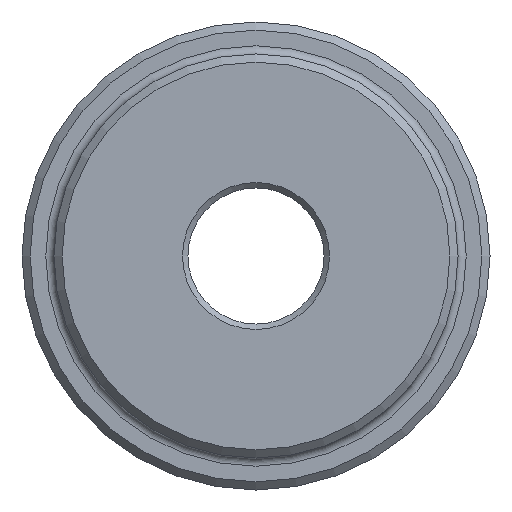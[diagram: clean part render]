
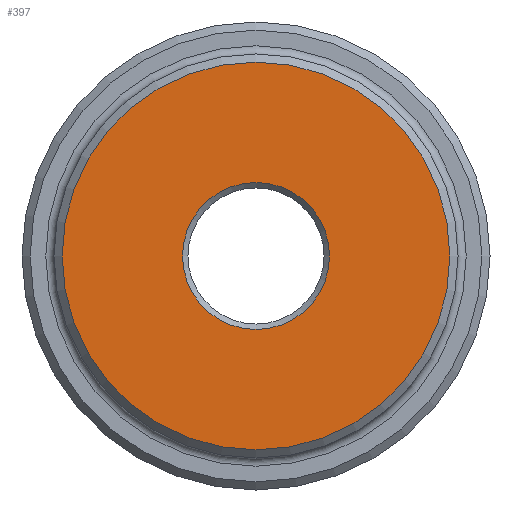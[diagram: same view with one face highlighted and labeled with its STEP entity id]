
A CAD part, left-side view. The second image highlights one B-rep face of the part: STEP entity #397.
In plain terms, the highlighted planar face has unit normal (-1, 0, 0).
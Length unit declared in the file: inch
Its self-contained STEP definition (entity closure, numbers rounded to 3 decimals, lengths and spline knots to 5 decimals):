
#17 = DIRECTION ( 'NONE',  ( 1., 0., 0. ) ) ;
#117 = DIRECTION ( 'NONE',  ( 0., 0., -1. ) ) ;
#241 = CARTESIAN_POINT ( 'NONE',  ( 0., 0., -0.54015 ) ) ;
#265 = VERTEX_POINT ( 'NONE', #635 ) ;
#359 = DIRECTION ( 'NONE',  ( 0., 0., -1. ) ) ;
#364 = AXIS2_PLACEMENT_3D ( 'NONE', #768, #503, #359 ) ;
#397 = ADVANCED_FACE ( 'NONE', ( #965, #818 ), #1188, .F. ) ;
#503 = DIRECTION ( 'NONE',  ( 1., 0., 0. ) ) ;
#562 = CARTESIAN_POINT ( 'NONE',  ( 0., 0., 0. ) ) ;
#575 = AXIS2_PLACEMENT_3D ( 'NONE', #1812, #17, #117 ) ;
#617 = DIRECTION ( 'NONE',  ( -1., 0., 0. ) ) ;
#635 = CARTESIAN_POINT ( 'NONE',  ( 0., 0., -1.425 ) ) ;
#706 = EDGE_LOOP ( 'NONE', ( #1248 ) ) ;
#768 = CARTESIAN_POINT ( 'NONE',  ( 0., 0., 0. ) ) ;
#818 = FACE_OUTER_BOUND ( 'NONE', #1683, .T. ) ;
#960 = EDGE_CURVE ( 'NONE', #989, #989, #1247, .T. ) ;
#965 = FACE_BOUND ( 'NONE', #706, .T. ) ;
#972 = EDGE_CURVE ( 'NONE', #265, #265, #1003, .T. ) ;
#989 = VERTEX_POINT ( 'NONE', #241 ) ;
#1003 = CIRCLE ( 'NONE', #1495, 1.425 ) ;
#1188 = PLANE ( 'NONE',  #364 ) ;
#1247 = CIRCLE ( 'NONE', #575, 0.54015 ) ;
#1248 = ORIENTED_EDGE ( 'NONE', *, *, #960, .T. ) ;
#1385 = ORIENTED_EDGE ( 'NONE', *, *, #972, .T. ) ;
#1495 = AXIS2_PLACEMENT_3D ( 'NONE', #562, #617, #1682 ) ;
#1682 = DIRECTION ( 'NONE',  ( 0., 0., -1. ) ) ;
#1683 = EDGE_LOOP ( 'NONE', ( #1385 ) ) ;
#1812 = CARTESIAN_POINT ( 'NONE',  ( 0., 0., 0. ) ) ;
